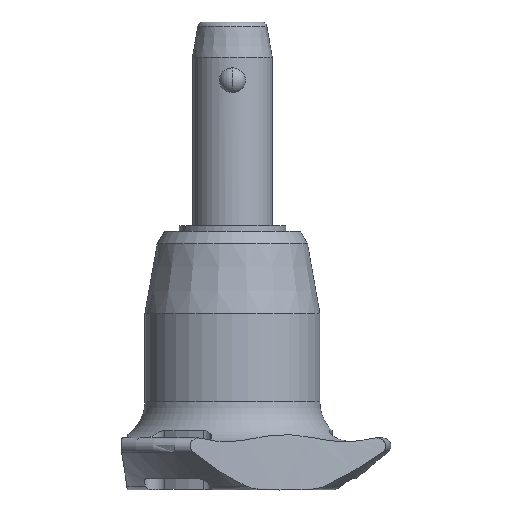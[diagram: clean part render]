
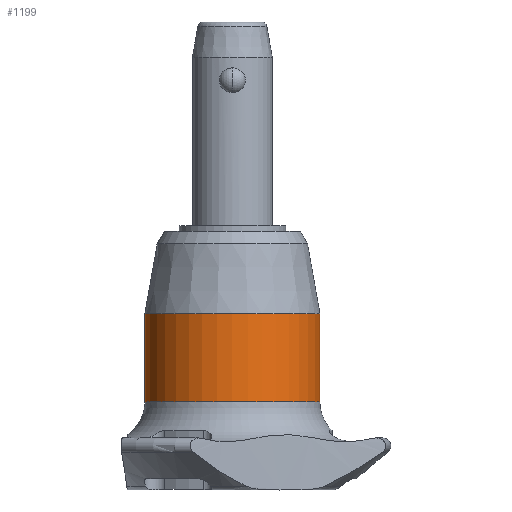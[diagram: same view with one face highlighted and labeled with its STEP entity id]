
A CAD part, front view. The second image highlights one B-rep face of the part: STEP entity #1199.
In plain terms, the highlighted cylindrical face has radius 13.15 mm (diameter 26.3 mm), a partial arc.
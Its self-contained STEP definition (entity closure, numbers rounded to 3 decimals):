
#10 = CARTESIAN_POINT ( 'NONE',  ( 0., 0., -46.467 ) ) ;
#61 = AXIS2_PLACEMENT_3D ( 'NONE', #192, #1094, #162 ) ;
#162 = DIRECTION ( 'NONE',  ( -1., 0., 0. ) ) ;
#176 = CARTESIAN_POINT ( 'NONE',  ( 0., 0., -33.233 ) ) ;
#192 = CARTESIAN_POINT ( 'NONE',  ( 0., 0., -46.467 ) ) ;
#203 = CIRCLE ( 'NONE', #61, 13.15 ) ;
#268 = EDGE_CURVE ( 'NONE', #2280, #1080, #203, .T. ) ;
#351 = LINE ( 'NONE', #1909, #2012 ) ;
#573 = CIRCLE ( 'NONE', #1317, 13.15 ) ;
#633 = EDGE_LOOP ( 'NONE', ( #2859, #2400, #2229, #1807 ) ) ;
#659 = VERTEX_POINT ( 'NONE', #1478 ) ;
#1080 = VERTEX_POINT ( 'NONE', #1509 ) ;
#1094 = DIRECTION ( 'NONE',  ( 0., 0., -1. ) ) ;
#1183 = CARTESIAN_POINT ( 'NONE',  ( 13.15, 0., -46.467 ) ) ;
#1195 = LINE ( 'NONE', #1452, #2706 ) ;
#1199 = ADVANCED_FACE ( 'NONE', ( #2416 ), #1504, .T. ) ;
#1215 = EDGE_CURVE ( 'NONE', #1709, #659, #573, .T. ) ;
#1216 = AXIS2_PLACEMENT_3D ( 'NONE', #10, #1307, #2203 ) ;
#1307 = DIRECTION ( 'NONE',  ( 0., 0., -1. ) ) ;
#1317 = AXIS2_PLACEMENT_3D ( 'NONE', #176, #1720, #2155 ) ;
#1452 = CARTESIAN_POINT ( 'NONE',  ( -13.15, 0., -46.467 ) ) ;
#1478 = CARTESIAN_POINT ( 'NONE',  ( -13.15, 0., -33.233 ) ) ;
#1504 = CYLINDRICAL_SURFACE ( 'NONE', #1216, 13.15 ) ;
#1509 = CARTESIAN_POINT ( 'NONE',  ( -13.15, 0., -46.467 ) ) ;
#1709 = VERTEX_POINT ( 'NONE', #1718 ) ;
#1718 = CARTESIAN_POINT ( 'NONE',  ( 13.15, 0., -33.233 ) ) ;
#1720 = DIRECTION ( 'NONE',  ( 0., 0., -1. ) ) ;
#1807 = ORIENTED_EDGE ( 'NONE', *, *, #268, .F. ) ;
#1909 = CARTESIAN_POINT ( 'NONE',  ( 13.15, 0., -46.467 ) ) ;
#1936 = EDGE_CURVE ( 'NONE', #659, #1080, #1195, .T. ) ;
#2012 = VECTOR ( 'NONE', #2495, 1000. ) ;
#2155 = DIRECTION ( 'NONE',  ( -1., 0., 0. ) ) ;
#2203 = DIRECTION ( 'NONE',  ( -1., 0., 0. ) ) ;
#2229 = ORIENTED_EDGE ( 'NONE', *, *, #1936, .T. ) ;
#2280 = VERTEX_POINT ( 'NONE', #1183 ) ;
#2306 = EDGE_CURVE ( 'NONE', #1709, #2280, #351, .T. ) ;
#2400 = ORIENTED_EDGE ( 'NONE', *, *, #1215, .T. ) ;
#2416 = FACE_OUTER_BOUND ( 'NONE', #633, .T. ) ;
#2495 = DIRECTION ( 'NONE',  ( 0., 0., -1. ) ) ;
#2536 = DIRECTION ( 'NONE',  ( 0., 0., -1. ) ) ;
#2706 = VECTOR ( 'NONE', #2536, 1000. ) ;
#2859 = ORIENTED_EDGE ( 'NONE', *, *, #2306, .F. ) ;
